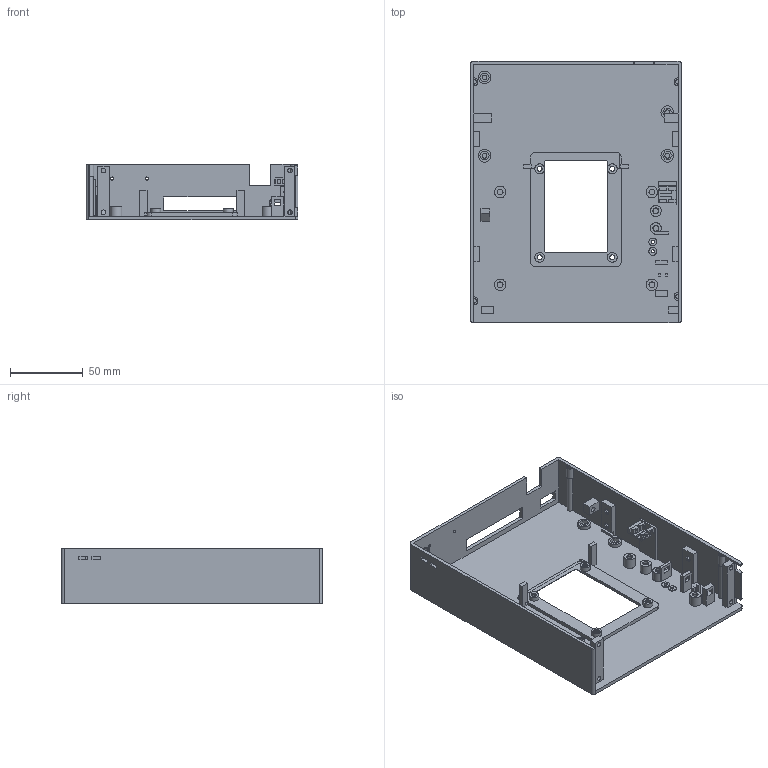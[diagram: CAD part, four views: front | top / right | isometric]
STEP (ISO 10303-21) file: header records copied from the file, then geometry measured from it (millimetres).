
FILE_DESCRIPTION(('Open CASCADE Model'),'2;1');
FILE_NAME('Open CASCADE Shape Model','2026-11-07T23:26:23',('Author'),( 'Open CASCADE'),'Open CASCADE STEP processor 7.9','Open CASCADE 7.9' ,'Unknown');
FILE_SCHEMA(('AUTOMOTIVE_DESIGN { 1 0 10303 214 1 1 1 1 }'));
Length unit declared in the file: millimetre
Products named in the file (1): Open CASCADE STEP translator 7.9 75
Bounding box: 146.05 x 180 x 38.5 mm (x, y, z)
Volume: 110163.9 mm3; surface area: 94607.7 mm2
Topology: 1 solids, 1 shells, 419 faces, 1059 edges, 697 vertices
Faces by surface type: plane 296, cylinder 101, cone 22
Full cylindrical faces by diameter (mm): 2.2 x4, 3.2 x6, 3.3 x12, 3.89 x18, 4.04 x2, 5.4 x2, 6.8 x4, 7.6 x1, 8 x4, 8.8 x4
Entity records: 26611 total; most frequent: CARTESIAN_POINT 4899, DIRECTION 4106, LINE 2664, VECTOR 2664, ORIENTED_EDGE 2118, PCURVE 2118, DEFINITIONAL_REPRESENTATION 2118, EDGE_CURVE 1059
